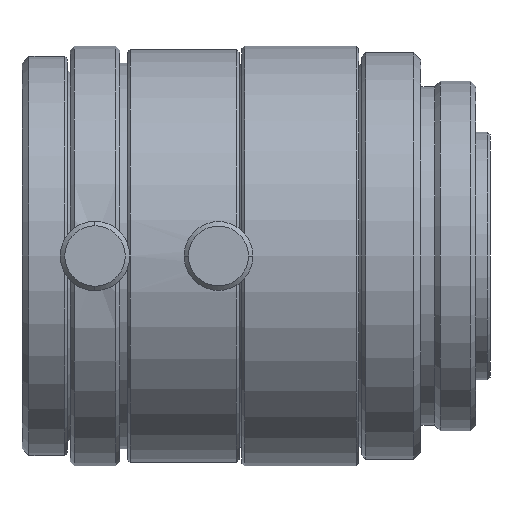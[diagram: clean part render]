
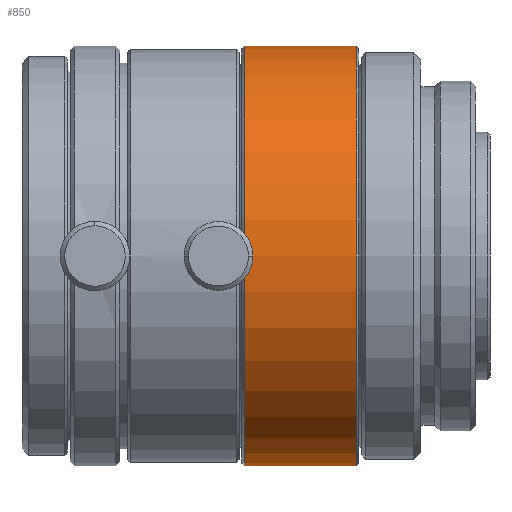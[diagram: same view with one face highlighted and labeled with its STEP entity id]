
A CAD part, front view. The second image highlights one B-rep face of the part: STEP entity #850.
In plain terms, the highlighted cylindrical face has radius 15.25 mm (diameter 30.5 mm), a partial arc.
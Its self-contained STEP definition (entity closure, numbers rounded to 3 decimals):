
#105 = LINE ( 'NONE', #1874, #3139 ) ;
#209 = CIRCLE ( 'NONE', #2713, 15.25 ) ;
#347 = CARTESIAN_POINT ( 'NONE',  ( -50.844, 0., 0. ) ) ;
#424 = DIRECTION ( 'NONE',  ( -1., 0., 0. ) ) ;
#474 = CARTESIAN_POINT ( 'NONE',  ( -22.226, 0., -15.25 ) ) ;
#516 = ORIENTED_EDGE ( 'NONE', *, *, #895, .F. ) ;
#724 = DIRECTION ( 'NONE',  ( -1., 0., 0. ) ) ;
#795 = CARTESIAN_POINT ( 'NONE',  ( -22.226, 0., 15.25 ) ) ;
#848 = VERTEX_POINT ( 'NONE', #1190 ) ;
#850 = ADVANCED_FACE ( 'NONE', ( #2245 ), #2949, .T. ) ;
#851 = AXIS2_PLACEMENT_3D ( 'NONE', #3394, #1616, #3696 ) ;
#895 = EDGE_CURVE ( 'NONE', #3785, #1005, #1299, .T. ) ;
#1005 = VERTEX_POINT ( 'NONE', #3561 ) ;
#1059 = DIRECTION ( 'NONE',  ( 0., 0., 1. ) ) ;
#1185 = ORIENTED_EDGE ( 'NONE', *, *, #1635, .F. ) ;
#1190 = CARTESIAN_POINT ( 'NONE',  ( -30.326, 0., 15.25 ) ) ;
#1200 = EDGE_LOOP ( 'NONE', ( #516, #1863, #1372, #1185 ) ) ;
#1233 = EDGE_CURVE ( 'NONE', #3057, #848, #105, .T. ) ;
#1299 = LINE ( 'NONE', #1813, #2061 ) ;
#1372 = ORIENTED_EDGE ( 'NONE', *, *, #1233, .T. ) ;
#1498 = CIRCLE ( 'NONE', #851, 15.25 ) ;
#1560 = CARTESIAN_POINT ( 'NONE',  ( -22.226, 0., 0. ) ) ;
#1590 = DIRECTION ( 'NONE',  ( -1., 0., 0. ) ) ;
#1616 = DIRECTION ( 'NONE',  ( -1., 0., 0. ) ) ;
#1635 = EDGE_CURVE ( 'NONE', #1005, #848, #1498, .T. ) ;
#1813 = CARTESIAN_POINT ( 'NONE',  ( -50.844, 0., -15.25 ) ) ;
#1841 = DIRECTION ( 'NONE',  ( 0., 0., 1. ) ) ;
#1863 = ORIENTED_EDGE ( 'NONE', *, *, #2501, .T. ) ;
#1874 = CARTESIAN_POINT ( 'NONE',  ( -50.844, 0., 15.25 ) ) ;
#2061 = VECTOR ( 'NONE', #424, 1000. ) ;
#2245 = FACE_OUTER_BOUND ( 'NONE', #1200, .T. ) ;
#2501 = EDGE_CURVE ( 'NONE', #3785, #3057, #209, .T. ) ;
#2713 = AXIS2_PLACEMENT_3D ( 'NONE', #1560, #3634, #1841 ) ;
#2949 = CYLINDRICAL_SURFACE ( 'NONE', #3784, 15.25 ) ;
#3057 = VERTEX_POINT ( 'NONE', #795 ) ;
#3139 = VECTOR ( 'NONE', #1590, 1000. ) ;
#3394 = CARTESIAN_POINT ( 'NONE',  ( -30.326, 0., 0. ) ) ;
#3561 = CARTESIAN_POINT ( 'NONE',  ( -30.326, 0., -15.25 ) ) ;
#3634 = DIRECTION ( 'NONE',  ( -1., 0., 0. ) ) ;
#3696 = DIRECTION ( 'NONE',  ( 0., 0., 1. ) ) ;
#3784 = AXIS2_PLACEMENT_3D ( 'NONE', #347, #724, #1059 ) ;
#3785 = VERTEX_POINT ( 'NONE', #474 ) ;
